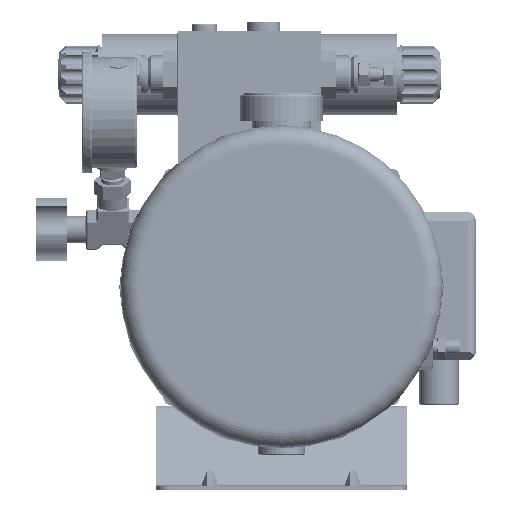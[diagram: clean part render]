
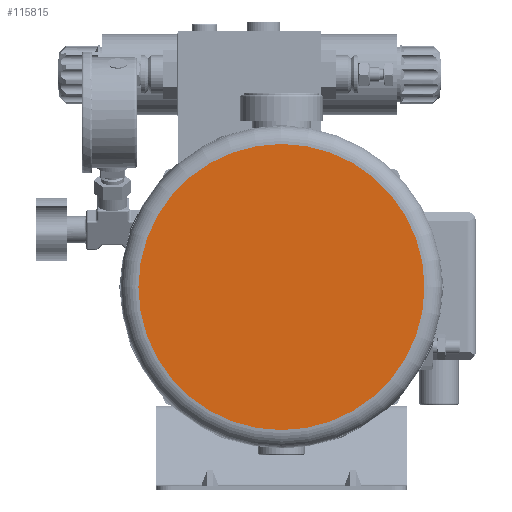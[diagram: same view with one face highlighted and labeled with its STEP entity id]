
A CAD part, left-side view. The second image highlights one B-rep face of the part: STEP entity #115815.
In plain terms, the highlighted planar face has unit normal (-1, 0, 0).
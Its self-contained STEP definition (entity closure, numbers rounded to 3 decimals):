
#23727=PLANE('',#124817);
#28176=FACE_OUTER_BOUND('',#34678,.T.);
#34678=EDGE_LOOP('',(#86651,#86652));
#41487=CIRCLE('',#124755,80.);
#41488=CIRCLE('',#124756,80.);
#49934=VERTEX_POINT('',#203493);
#49935=VERTEX_POINT('',#203494);
#63269=EDGE_CURVE('',#49934,#49935,#41487,.T.);
#63270=EDGE_CURVE('',#49935,#49934,#41488,.T.);
#86651=ORIENTED_EDGE('',*,*,#63269,.T.);
#86652=ORIENTED_EDGE('',*,*,#63270,.T.);
#115815=ADVANCED_FACE('',(#28176),#23727,.T.);
#124755=AXIS2_PLACEMENT_3D('',#203495,#145955,#145956);
#124756=AXIS2_PLACEMENT_3D('',#203496,#145957,#145958);
#124817=AXIS2_PLACEMENT_3D('',#209700,#146085,#146086);
#145955=DIRECTION('center_axis',(-1.,0.,0.));
#145956=DIRECTION('ref_axis',(0.,-1.,0.));
#145957=DIRECTION('center_axis',(-1.,0.,0.));
#145958=DIRECTION('ref_axis',(0.,-1.,0.));
#146085=DIRECTION('center_axis',(-1.,0.,0.));
#146086=DIRECTION('ref_axis',(0.,-1.,0.));
#203493=CARTESIAN_POINT('',(-437.,-1815.218,-20.89));
#203494=CARTESIAN_POINT('',(-437.,-1655.218,-20.89));
#203495=CARTESIAN_POINT('Origin',(-437.,-1735.218,-20.89));
#203496=CARTESIAN_POINT('Origin',(-437.,-1735.218,-20.89));
#209700=CARTESIAN_POINT('Origin',(-437.,-1735.218,69.11));
